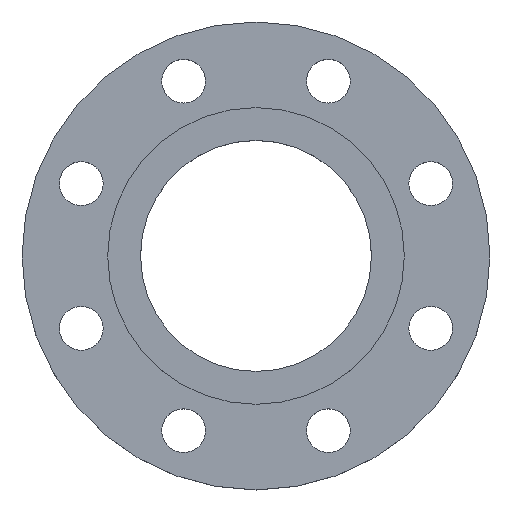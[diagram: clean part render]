
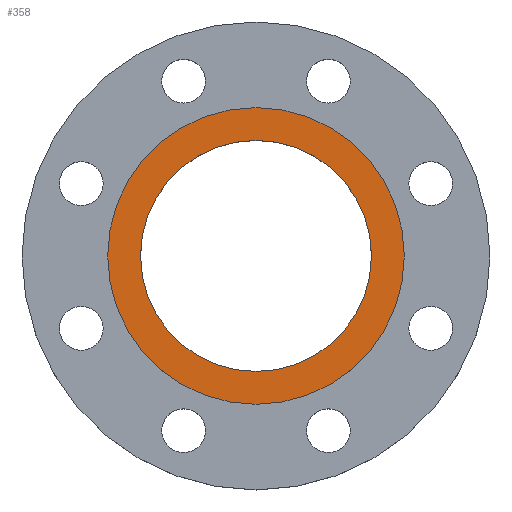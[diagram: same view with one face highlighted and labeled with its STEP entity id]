
A CAD part, top view. The second image highlights one B-rep face of the part: STEP entity #358.
In plain terms, the highlighted planar face has unit normal (0, 0, 1).
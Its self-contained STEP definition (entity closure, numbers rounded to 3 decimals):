
#3 = CARTESIAN_POINT ( 'NONE',  ( 74.5, 0., 0. ) ) ;
#77 = AXIS2_PLACEMENT_3D ( 'NONE', #692, #164, #163 ) ;
#87 = CARTESIAN_POINT ( 'NONE',  ( -74.5, 0., 0. ) ) ;
#137 = DIRECTION ( 'NONE',  ( -1., 0., 0. ) ) ;
#139 = DIRECTION ( 'NONE',  ( 0., 0., -1. ) ) ;
#140 = CARTESIAN_POINT ( 'NONE',  ( 0., 0., 0. ) ) ;
#148 = AXIS2_PLACEMENT_3D ( 'NONE', #449, #450, #681 ) ;
#163 = DIRECTION ( 'NONE',  ( -1., 0., 0. ) ) ;
#164 = DIRECTION ( 'NONE',  ( 0., 0., -1. ) ) ;
#248 = AXIS2_PLACEMENT_3D ( 'NONE', #305, #306, #307 ) ;
#302 = FACE_BOUND ( 'NONE', #824, .T. ) ;
#303 = FACE_OUTER_BOUND ( 'NONE', #712, .T. ) ;
#304 = PLANE ( 'NONE',  #248 ) ;
#305 = CARTESIAN_POINT ( 'NONE',  ( 0., 0., 0. ) ) ;
#306 = DIRECTION ( 'NONE',  ( 0., 0., 1. ) ) ;
#307 = DIRECTION ( 'NONE',  ( 1., 0., 0. ) ) ;
#340 = CARTESIAN_POINT ( 'NONE',  ( 0., 0., 0. ) ) ;
#358 = ADVANCED_FACE ( 'NONE', ( #302, #303 ), #304, .T. ) ;
#402 = DIRECTION ( 'NONE',  ( 0., 0., -1. ) ) ;
#404 = DIRECTION ( 'NONE',  ( -1., 0., 0. ) ) ;
#410 = AXIS2_PLACEMENT_3D ( 'NONE', #140, #139, #137 ) ;
#449 = CARTESIAN_POINT ( 'NONE',  ( 0., 0., 0. ) ) ;
#450 = DIRECTION ( 'NONE',  ( 0., 0., -1. ) ) ;
#480 = EDGE_CURVE ( 'NONE', #863, #855, #576, .T. ) ;
#507 = CIRCLE ( 'NONE', #744, 58. ) ;
#511 = EDGE_CURVE ( 'NONE', #596, #669, #521, .T. ) ;
#521 = CIRCLE ( 'NONE', #77, 74.5 ) ;
#563 = EDGE_CURVE ( 'NONE', #855, #863, #507, .T. ) ;
#565 = CARTESIAN_POINT ( 'NONE',  ( 58., 0., 0. ) ) ;
#573 = EDGE_CURVE ( 'NONE', #669, #596, #706, .T. ) ;
#576 = CIRCLE ( 'NONE', #148, 58. ) ;
#596 = VERTEX_POINT ( 'NONE', #87 ) ;
#669 = VERTEX_POINT ( 'NONE', #3 ) ;
#681 = DIRECTION ( 'NONE',  ( -1., 0., 0. ) ) ;
#692 = CARTESIAN_POINT ( 'NONE',  ( 0., 0., 0. ) ) ;
#706 = CIRCLE ( 'NONE', #410, 74.5 ) ;
#710 = CARTESIAN_POINT ( 'NONE',  ( -58., 0., 0. ) ) ;
#712 = EDGE_LOOP ( 'NONE', ( #781, #783 ) ) ;
#744 = AXIS2_PLACEMENT_3D ( 'NONE', #340, #402, #404 ) ;
#777 = ORIENTED_EDGE ( 'NONE', *, *, #480, .T. ) ;
#778 = ORIENTED_EDGE ( 'NONE', *, *, #563, .T. ) ;
#781 = ORIENTED_EDGE ( 'NONE', *, *, #511, .F. ) ;
#783 = ORIENTED_EDGE ( 'NONE', *, *, #573, .F. ) ;
#824 = EDGE_LOOP ( 'NONE', ( #777, #778 ) ) ;
#855 = VERTEX_POINT ( 'NONE', #565 ) ;
#863 = VERTEX_POINT ( 'NONE', #710 ) ;
